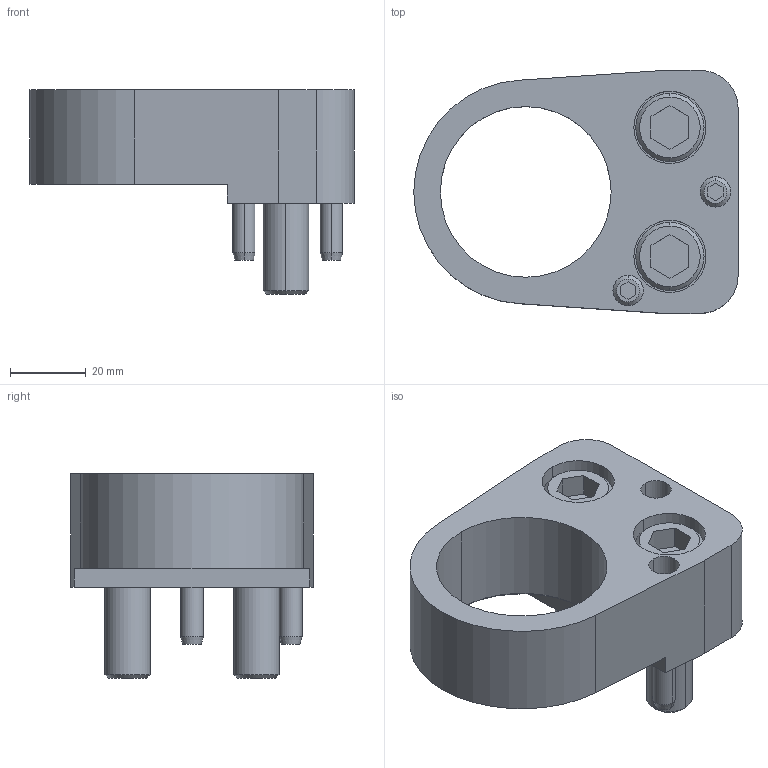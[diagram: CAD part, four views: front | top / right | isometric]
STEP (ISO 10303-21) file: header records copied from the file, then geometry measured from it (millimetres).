
FILE_DESCRIPTION(/* description */ (''),/* implementation_level */ '2;1');
FILE_NAME(/* name */ '3d_cpfr45_02865_r00.stp',/* time_stamp */ '2011-01-10T14:16:25+09:00',/* author */ ('MISUMI'),/* organization */ (''),/* preprocessor_version */ 'ST-DEVELOPER v11',/* originating_system */ 'UGS - NX 5.0',/* authorisation */ '');
FILE_SCHEMA (('CONFIG_CONTROL_DESIGN'));
Length unit declared in the file: millimetre
Products named in the file (1): 3d_cpfr45_02865_r00
Bounding box: 85.5 x 64 x 54 mm (x, y, z)
Volume: 92702.9 mm3; surface area: 28838.7 mm2
Topology: 7 solids, 7 shells, 134 faces, 296 edges, 189 vertices
Faces by surface type: plane 61, cylinder 47, cone 26
Entity records: 3836 total; most frequent: DIRECTION 682, CARTESIAN_POINT 671, ORIENTED_EDGE 592, EDGE_CURVE 296, AXIS2_PLACEMENT_3D 256, VERTEX_POINT 189, LINE 170, VECTOR 170
